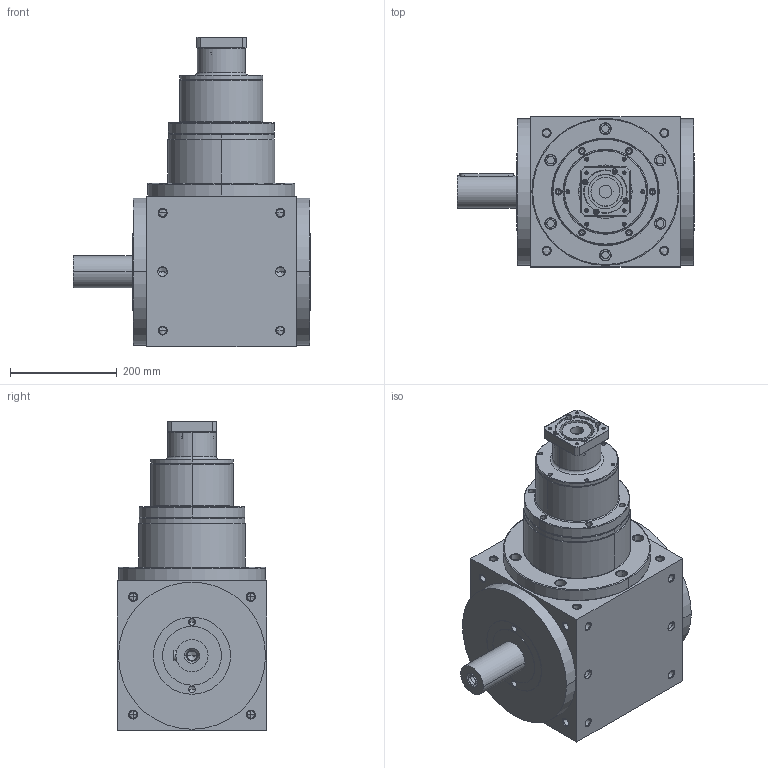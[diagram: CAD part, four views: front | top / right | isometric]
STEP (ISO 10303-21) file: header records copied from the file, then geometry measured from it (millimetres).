
FILE_DESCRIPTION((''),'2;1');
FILE_NAME('ATB280FL13-P0405300303_ASM','2014-07-30T',('d01707'),(''),'PRO/ENGINEER BY PARAMETRIC TECHNOLOGY CORPORATION, 2008410','PRO/ENGINEER BY PARAMETRIC TECHNOLOGY CORPORATION, 2008410','');
FILE_SCHEMA(('CONFIG_CONTROL_DESIGN'));
Length unit declared in the file: millimetre
Products named in the file (6): ATBFL1-HOUSING-3-A; P1820A00001; P0226A00002; P0227900001; P0405300303; ATB280FL13-P0405300303_ASM
Assembly tree (5 placements, depth 2):
  ATB280FL13-P0405300303_ASM
    ATBFL1-HOUSING-3-A
    P1820A00001
    P0226A00002
    P0227900001
    P0405300303
Bounding box: 444 x 280 x 578 mm (x, y, z)
Volume: 29026101.2 mm3; surface area: 1138246.3 mm2
Topology: 5 solids, 50 shells, 954 faces, 2309 edges, 1358 vertices
Faces by surface type: cylinder 402, cone 342, plane 128, torus 66, bspline 16
Entity records: 28741 total; most frequent: CARTESIAN_POINT 6375, DIRECTION 5057, ORIENTED_EDGE 4222, EDGE_CURVE 2201, AXIS2_PLACEMENT_3D 2119, VERTEX_POINT 1358, CIRCLE 1160, EDGE_LOOP 1141
